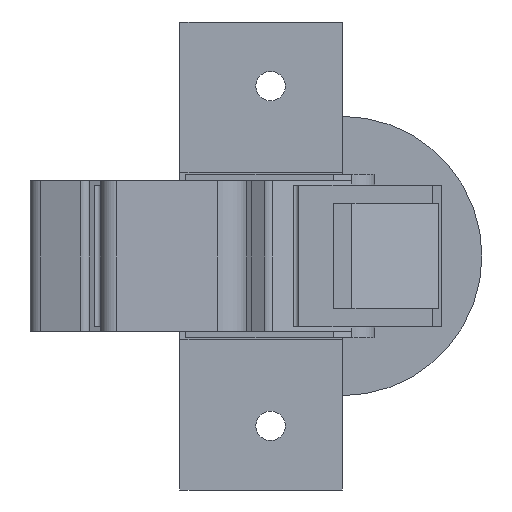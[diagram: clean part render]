
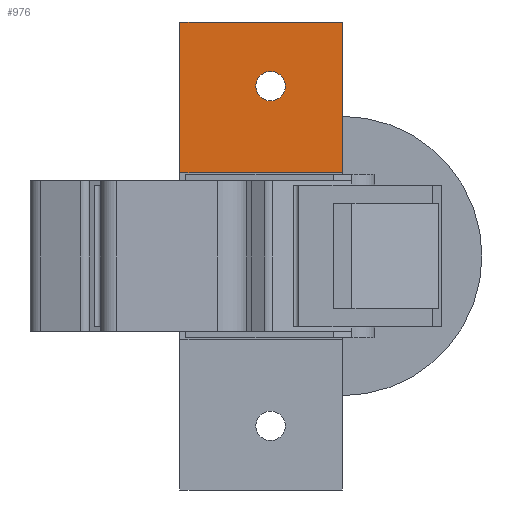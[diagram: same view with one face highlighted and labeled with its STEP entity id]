
A CAD part, front view. The second image highlights one B-rep face of the part: STEP entity #976.
In plain terms, the highlighted planar face has unit normal (0, -1, 0).
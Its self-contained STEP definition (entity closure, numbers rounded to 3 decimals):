
#2 = CARTESIAN_POINT ( 'NONE',  ( -25.834, 35.9, 24.45 ) ) ;
#35 = DIRECTION ( 'NONE',  ( 0., 0., -1. ) ) ;
#72 = CARTESIAN_POINT ( 'NONE',  ( -37.834, 35.9, 31. ) ) ;
#82 = VERTEX_POINT ( 'NONE', #3399 ) ;
#91 = DIRECTION ( 'NONE',  ( 0., -1., 0. ) ) ;
#135 = DIRECTION ( 'NONE',  ( 0., 0., -1. ) ) ;
#150 = VECTOR ( 'NONE', #4163, 1000. ) ;
#284 = PLANE ( 'NONE',  #3040 ) ;
#323 = LINE ( 'NONE', #1420, #752 ) ;
#346 = DIRECTION ( 'NONE',  ( 0., -1., 0. ) ) ;
#352 = FACE_BOUND ( 'NONE', #3257, .T. ) ;
#377 = VERTEX_POINT ( 'NONE', #4196 ) ;
#408 = AXIS2_PLACEMENT_3D ( 'NONE', #2148, #346, #35 ) ;
#581 = VECTOR ( 'NONE', #2208, 1000. ) ;
#752 = VECTOR ( 'NONE', #3905, 1000. ) ;
#976 = ADVANCED_FACE ( 'NONE', ( #352, #3521 ), #284, .F. ) ;
#985 = ORIENTED_EDGE ( 'NONE', *, *, #3256, .F. ) ;
#1371 = AXIS2_PLACEMENT_3D ( 'NONE', #1562, #91, #135 ) ;
#1386 = DIRECTION ( 'NONE',  ( 0., 0., 1. ) ) ;
#1420 = CARTESIAN_POINT ( 'NONE',  ( -37.834, 35.9, 31. ) ) ;
#1430 = DIRECTION ( 'NONE',  ( 0., 1., 0. ) ) ;
#1562 = CARTESIAN_POINT ( 'NONE',  ( -25.834, 35.9, 22.5 ) ) ;
#1836 = ORIENTED_EDGE ( 'NONE', *, *, #2539, .F. ) ;
#1861 = LINE ( 'NONE', #2261, #4051 ) ;
#2148 = CARTESIAN_POINT ( 'NONE',  ( -25.834, 35.9, 22.5 ) ) ;
#2208 = DIRECTION ( 'NONE',  ( -1., 0., 0. ) ) ;
#2226 = ORIENTED_EDGE ( 'NONE', *, *, #4565, .F. ) ;
#2261 = CARTESIAN_POINT ( 'NONE',  ( -37.834, 35.9, -31. ) ) ;
#2294 = ORIENTED_EDGE ( 'NONE', *, *, #2305, .F. ) ;
#2305 = EDGE_CURVE ( 'NONE', #2609, #4068, #3272, .T. ) ;
#2346 = EDGE_LOOP ( 'NONE', ( #1836, #4374, #2226, #3722 ) ) ;
#2539 = EDGE_CURVE ( 'NONE', #82, #2653, #1861, .T. ) ;
#2597 = EDGE_CURVE ( 'NONE', #3199, #82, #3947, .T. ) ;
#2609 = VERTEX_POINT ( 'NONE', #2 ) ;
#2653 = VERTEX_POINT ( 'NONE', #72 ) ;
#3040 = AXIS2_PLACEMENT_3D ( 'NONE', #4592, #1430, #1386 ) ;
#3199 = VERTEX_POINT ( 'NONE', #4427 ) ;
#3256 = EDGE_CURVE ( 'NONE', #4068, #2609, #3916, .T. ) ;
#3257 = EDGE_LOOP ( 'NONE', ( #985, #2294 ) ) ;
#3272 = CIRCLE ( 'NONE', #408, 1.95 ) ;
#3296 = DIRECTION ( 'NONE',  ( 0., 0., 1. ) ) ;
#3399 = CARTESIAN_POINT ( 'NONE',  ( -37.834, 35.9, 11. ) ) ;
#3467 = LINE ( 'NONE', #4587, #150 ) ;
#3521 = FACE_OUTER_BOUND ( 'NONE', #2346, .T. ) ;
#3722 = ORIENTED_EDGE ( 'NONE', *, *, #3866, .F. ) ;
#3866 = EDGE_CURVE ( 'NONE', #2653, #377, #323, .T. ) ;
#3905 = DIRECTION ( 'NONE',  ( 1., 0., 0. ) ) ;
#3916 = CIRCLE ( 'NONE', #1371, 1.95 ) ;
#3947 = LINE ( 'NONE', #3994, #581 ) ;
#3994 = CARTESIAN_POINT ( 'NONE',  ( -37.834, 35.9, 11. ) ) ;
#4051 = VECTOR ( 'NONE', #3296, 1000. ) ;
#4068 = VERTEX_POINT ( 'NONE', #4398 ) ;
#4163 = DIRECTION ( 'NONE',  ( 0., 0., -1. ) ) ;
#4196 = CARTESIAN_POINT ( 'NONE',  ( -16.334, 35.9, 31. ) ) ;
#4374 = ORIENTED_EDGE ( 'NONE', *, *, #2597, .F. ) ;
#4398 = CARTESIAN_POINT ( 'NONE',  ( -25.834, 35.9, 20.55 ) ) ;
#4427 = CARTESIAN_POINT ( 'NONE',  ( -16.334, 35.9, 11. ) ) ;
#4565 = EDGE_CURVE ( 'NONE', #377, #3199, #3467, .T. ) ;
#4587 = CARTESIAN_POINT ( 'NONE',  ( -16.334, 35.9, -31. ) ) ;
#4592 = CARTESIAN_POINT ( 'NONE',  ( -23.715, 35.9, 0. ) ) ;
